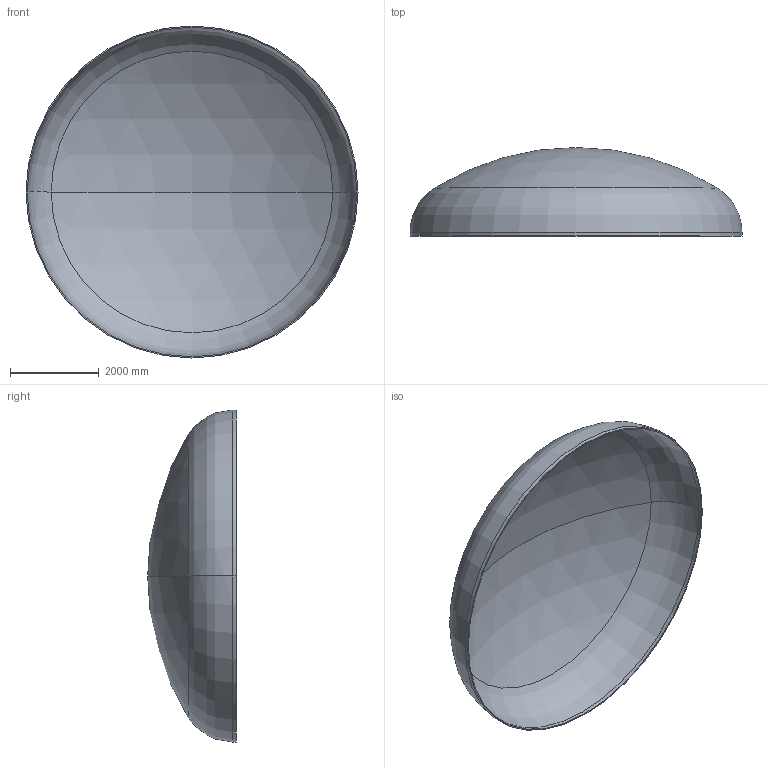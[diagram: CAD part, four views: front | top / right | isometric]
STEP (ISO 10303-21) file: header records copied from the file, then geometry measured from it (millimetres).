
FILE_DESCRIPTION (( 'STEP AP203' ), '1' );
FILE_NAME ('DIN 28013 Korbbogenform_-_Boden DIN 28013 - 7500 x 85 - I - s=26.step', '2016-07-04T10:52:34', ( '' ), ( '' ), 'SwSTEP 2.0', 'SolidWorks 2013', '' );
FILE_SCHEMA (( 'CONFIG_CONTROL_DESIGN' ));
Length unit declared in the file: millimetre
Products named in the file (1): DIN 28013 Korbbogenform_-_Boden DIN 28013 - 7500 x 85 - I - s=26
Bounding box: 7500 x 2003.17 x 7500 mm (x, y, z)
Volume: 1635570108.2 mm3; surface area: 126424937.1 mm2
Topology: 1 solids, 1 shells, 13 faces, 24 edges, 14 vertices
Faces by surface type: torus 4, cylinder 4, sphere 4, plane 1
Entity records: 407 total; most frequent: DIRECTION 72, CARTESIAN_POINT 52, ORIENTED_EDGE 48, AXIS2_PLACEMENT_3D 34, EDGE_CURVE 24, CIRCLE 20, EDGE_LOOP 14, VERTEX_POINT 14
